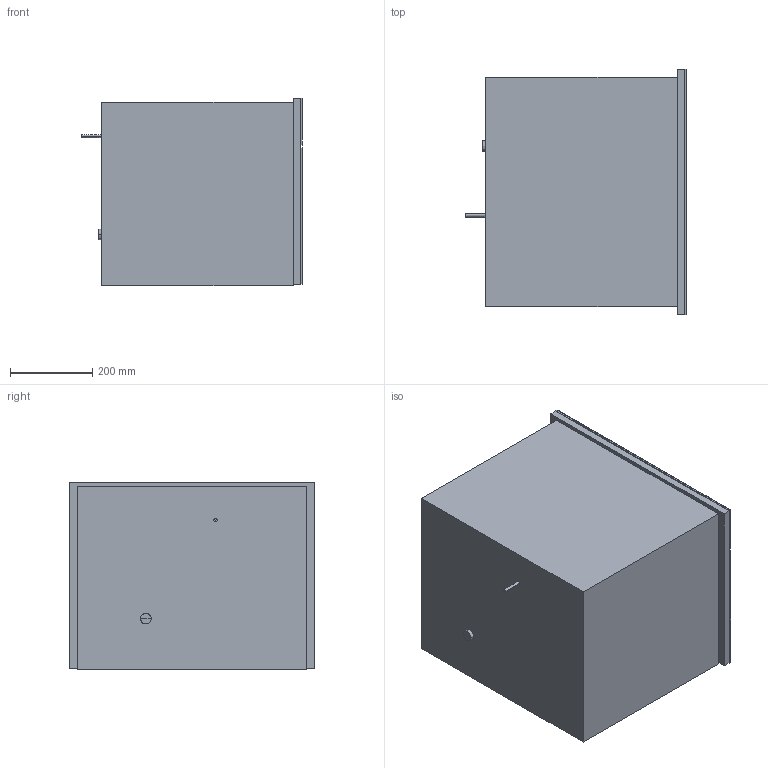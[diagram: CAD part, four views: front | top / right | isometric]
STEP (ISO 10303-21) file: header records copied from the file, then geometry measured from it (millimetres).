
FILE_DESCRIPTION(/* description */ (''),/* implementation_level */ '2;1');
FILE_NAME(/* name */ 'CVA6805_CLST',/* time_stamp */ '2013-04-22T15:50:00+02:00',/* author */ (''),/* organization */ (''),/* preprocessor_version */ 'ST-DEVELOPER v10',/* originating_system */ '',/* authorisation */ '');
FILE_SCHEMA (('AUTOMOTIVE_DESIGN_CC2'));
Length unit declared in the file: millimetre
Products named in the file (1): 1
Bounding box: 537.28 x 595.11 x 455.58 mm (x, y, z)
Volume: 111612213.5 mm3; surface area: 2511331.5 mm2
Topology: 16 solids, 16 shells, 124 faces, 279 edges, 160 vertices
Faces by surface type: bspline 124
Entity records: 6653 total; most frequent: CARTESIAN_POINT 4853, ORIENTED_EDGE 502, EDGE_CURVE 251, B_SPLINE_CURVE_WITH_KNOTS 222, VERTEX_POINT 160, EDGE_LOOP 127, ADVANCED_FACE 124, FACE_OUTER_BOUND 124
